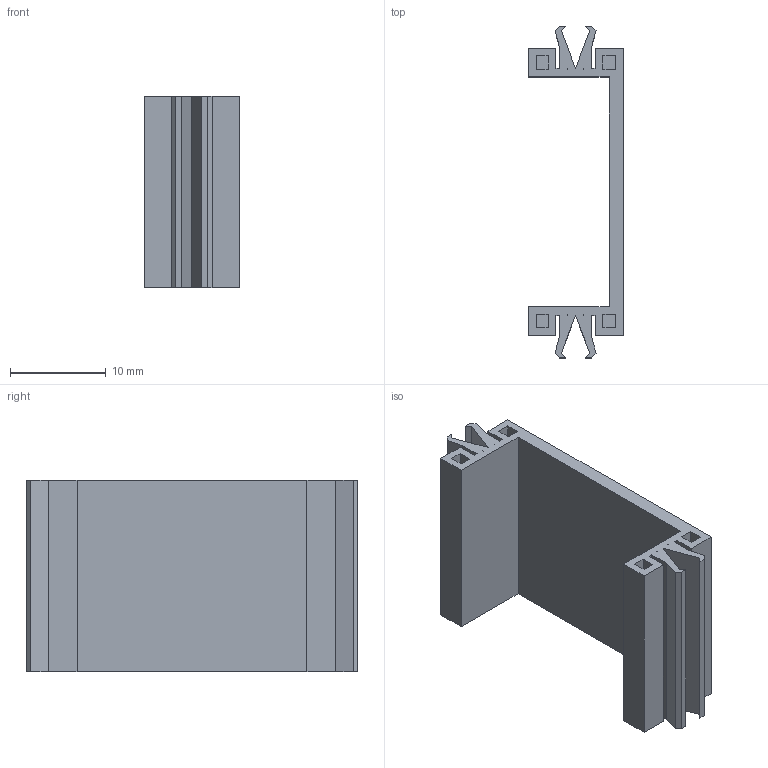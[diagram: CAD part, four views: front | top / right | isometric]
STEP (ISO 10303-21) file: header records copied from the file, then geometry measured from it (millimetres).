
FILE_DESCRIPTION(/* description */ (''),/* implementation_level */ '2;1');
FILE_NAME(/* name */ 'C:/Users/priba/Downloads/Plate1x3x2.step',/* time_stamp */ '2020-11-13T09:23:19+01:00',/* author */ (''),/* organization */ (''),/* preprocessor_version */ 'ST-DEVELOPER v18.1',/* originating_system */ 'Autodesk Translation Framework v9.3.0.1241',/* authorisation */ '');
FILE_SCHEMA (('AUTOMOTIVE_DESIGN { 1 0 10303 214 3 1 1 }'));
Length unit declared in the file: millimetre
Products named in the file (1): Plate1x3x2
Bounding box: 9.9 x 34.61 x 20 mm (x, y, z)
Volume: 1773.6 mm3; surface area: 3396.3 mm2
Topology: 1 solids, 9 shells, 126 faces, 300 edges, 200 vertices
Faces by surface type: plane 126
Entity records: 3570 total; most frequent: CARTESIAN_POINT 627, ORIENTED_EDGE 600, DIRECTION 554, LINE 300, VECTOR 300, EDGE_CURVE 300, VERTEX_POINT 200, EDGE_LOOP 134
